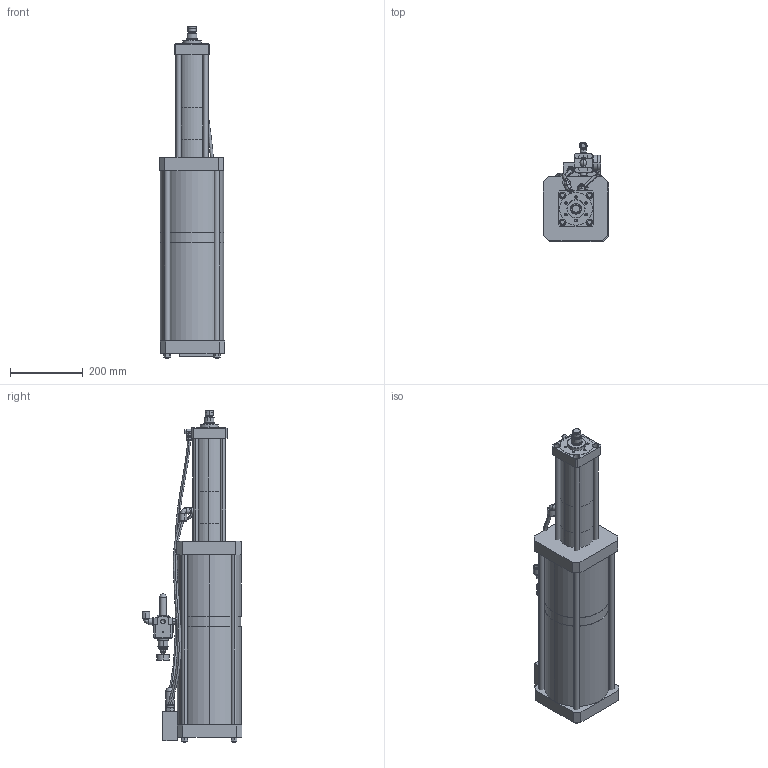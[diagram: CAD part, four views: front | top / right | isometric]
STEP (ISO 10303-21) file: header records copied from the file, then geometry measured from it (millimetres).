
FILE_DESCRIPTION (( 'STEP AP214' ), '1' );
FILE_NAME ('BS04-100-48A.STEP', '2025-09-22T11:46:55', ( 'Ranlm' ), ( '' ), 'SwSTEP 2.0', 'SolidWorks 2022', '' );
FILE_SCHEMA (( 'AUTOMOTIVE_DESIGN' ));
Length unit declared in the file: millimetre
Products named in the file (1): BS04-100-48A
Bounding box: 179 x 273.85 x 911.7 mm (x, y, z)
Volume: 16685370.7 mm3; surface area: 941925.4 mm2
Topology: 37 solids, 38 shells, 880 faces, 1997 edges, 1236 vertices
Faces by surface type: plane 409, cylinder 300, cone 105, torus 36, bspline 26, sphere 4
Entity records: 37863 total; most frequent: CARTESIAN_POINT 7938, DIRECTION 4336, ORIENTED_EDGE 3910, EDGE_CURVE 1955, AXIS2_PLACEMENT_3D 1670, VERTEX_POINT 1232, EDGE_LOOP 997, VECTOR 996
